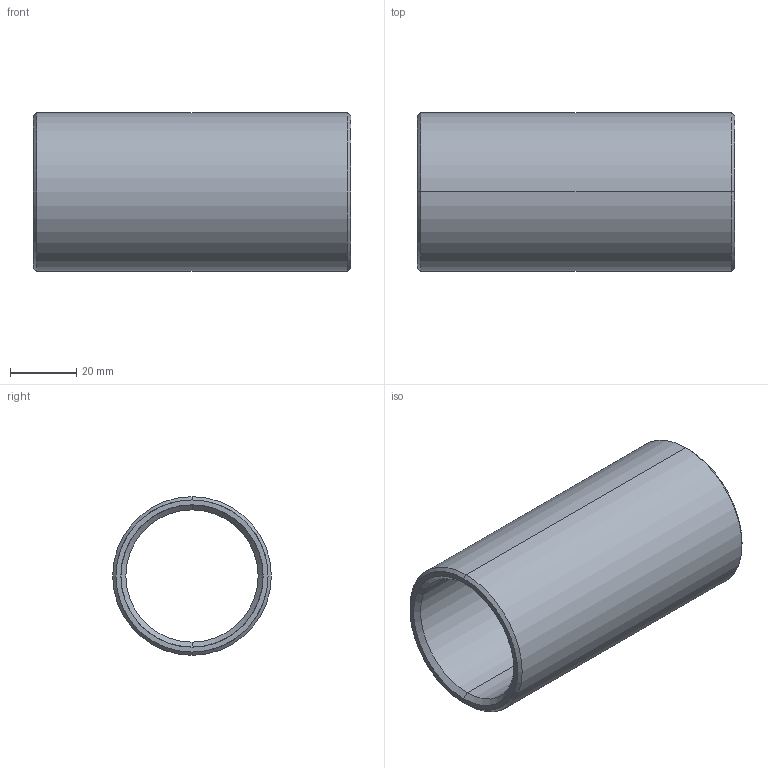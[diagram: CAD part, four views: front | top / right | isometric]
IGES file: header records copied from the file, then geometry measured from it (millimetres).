
Start section: START RECORD GO HERE.
Global section: file name: 352-40X96.igs; native system: DASSAULT SYSTEMES CATIA V5 R20 - www.3ds.com; preprocessor: CATIA Version 5 Release 20 ; author: Utente; organization: NB04-ASUS; date: 20210414.165118; units: millimetre
Bounding box: 96 x 48 x 48 mm (x, y, z)
Surface area: 27305.8 mm2 (no closed solid volume)
Topology: 0 solids, 0 shells, 14 faces, 88 edges, 88 vertices
Faces by surface type: revolution 12, plane 2
